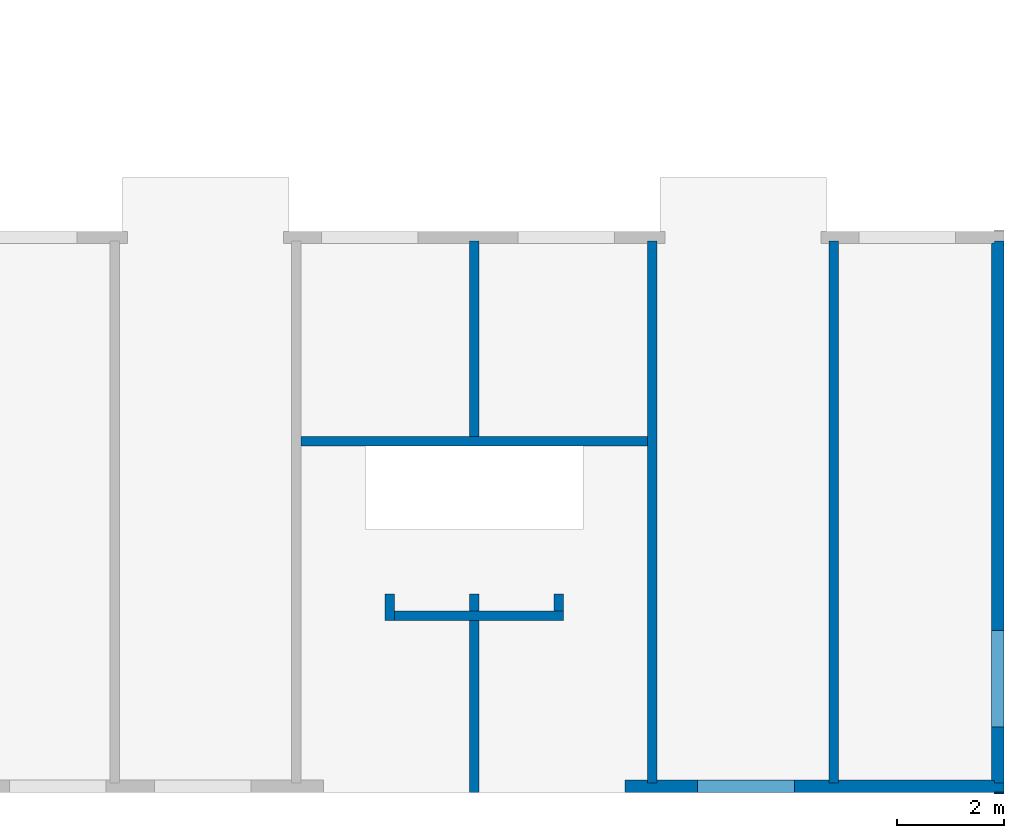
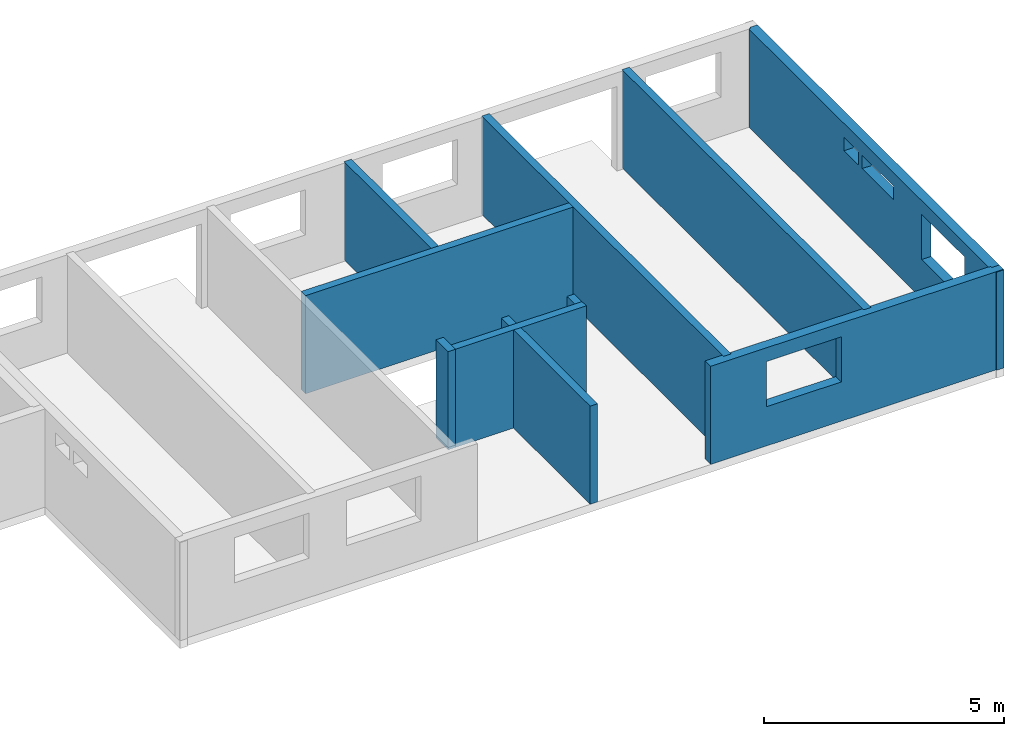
# One storey, part 8 of 9: 12 walls, 4 openings.
"""IFC2X3 building model written with IfcOpenShell, lengths in millimetres."""

from ifc_helpers import new_model, entity, si_unit, converted_unit, frame, frame_2d, origin, origin_with_axes, place, context, subcontext, project, spatial, polyline, rectangle, outline, extrude, material, layer, layer_set, layer_usage, element, save


model = new_model("IFC2X3")

# Units and contexts
model_context = context("Model", 3, precision=1e-05, world=origin())
plan_context = context("Plan", 3, precision=1e-05, world=origin())
body_context = subcontext(model_context, "Body", "Model", "MODEL_VIEW")
ifc_project = project(units=[si_unit("LENGTHUNIT", "METRE", prefix="MILLI"), converted_unit("PLANEANGLEUNIT", "DEGREE", entity("IfcPlaneAngleMeasure", 0.0174532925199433), si_unit("PLANEANGLEUNIT", "RADIAN"), dimensions=[0, 0, 0, 0, 0, 0, 0]), si_unit("AREAUNIT", "SQUARE_METRE"), si_unit("VOLUMEUNIT", "CUBIC_METRE")], contexts=[model_context, plan_context])

# Building, storey
building_placement = place(None, origin())
building = spatial("IfcBuilding", under=ifc_project, at=building_placement, Name="Bâtiment", CompositionType="ELEMENT")
storey_placement = place(building_placement, frame((0.0, 0.0, 5400.0), z_axis=(0.0, 0.0, 1.0), x_axis=(1.0, 0.0, 0.0)))
storey = spatial("IfcBuildingStorey", under=building, at=storey_placement, Name="r+2", CompositionType="ELEMENT", Elevation=5400.0)

# Walls
ifc_material_1 = material(Name="moellons")
ifc_layer_1 = layer(ifc_material_1, 20.16279356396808)
ifc_layer_set_1 = layer_set([ifc_layer_1])
ifc_layer_usage_1 = layer_usage(ifc_layer_set_1, "AXIS2", "POSITIVE", 0.0)
wall_1_placement = place(storey_placement, frame((59549.9999999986, -5599.999999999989, 0.0), z_axis=(0.0, 0.0, 1.0), x_axis=(-1.0, 0.0, 0.0)))
element("IfcWallStandardCase", 1, at=wall_1_placement, inside=storey, material=ifc_layer_usage_1, context=body_context, shape_type="SweptSolid", body=[
    extrude(rectangle(XDim=180.0, YDim=20.16279356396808, at=frame_2d((90.0, 10.08139678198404), x_axis=(1.0, 0.0))), frame((0.0, -20.16279356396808, 0.0), z_axis=(0.0, 0.0, 1.0), x_axis=(1.0, 0.0, 0.0)), (0.0, 0.0, 1.0), 2500.0),
])
ifc_material_2 = material(Name="moellons")
ifc_layer_2 = layer(ifc_material_2, 180.0)
ifc_layer_set_2 = layer_set([ifc_layer_2])
ifc_layer_usage_2 = layer_usage(ifc_layer_set_2, "AXIS2", "POSITIVE", 0.0)
wall_2_placement = place(storey_placement, frame((53089.99993810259, -5399.837206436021, 0.0), z_axis=(0.0, 0.0, 1.0), x_axis=(0.0, 1.0, 0.0)))
element("IfcWallStandardCase", 2, at=wall_2_placement, inside=storey, material=ifc_layer_usage_2, context=body_context, shape_type="SweptSolid", body=[
    extrude(rectangle(XDim=10089.91497192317, YDim=180.0, at=frame_2d((5044.957485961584, 90.0), x_axis=(1.0, 0.0))), origin_with_axes(), (0.0, 0.0, 1.0), 2500.0),
])
ifc_material_3 = material(Name="moellons")
ifc_layer_3 = layer(ifc_material_3, 180.0)
ifc_layer_set_3 = layer_set([ifc_layer_3])
ifc_layer_usage_3 = layer_usage(ifc_layer_set_3, "AXIS2", "POSITIVE", 0.0)
wall_3_placement = place(storey_placement, frame((56469.99999999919, -5399.837206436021, 0.0), z_axis=(0.0, 0.0, 1.0), x_axis=(0.0, 1.0, 0.0)))
element("IfcWallStandardCase", 3, at=wall_3_placement, inside=storey, material=ifc_layer_usage_3, context=body_context, shape_type="SweptSolid", body=[
    extrude(rectangle(XDim=10089.91497192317, YDim=180.0, at=frame_2d((5044.957485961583, 90.0), x_axis=(1.0, 0.0))), origin_with_axes(), (0.0, 0.0, 1.0), 2500.0),
])
ifc_material_4 = material(Name="moellons")
ifc_layer_4 = layer(ifc_material_4, 180.0)
ifc_layer_set_4 = layer_set([ifc_layer_4])
ifc_layer_usage_4 = layer_usage(ifc_layer_set_4, "AXIS2", "POSITIVE", 0.0)
wall_4_placement = place(storey_placement, frame((49774.99999999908, -5579.961782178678, 0.0), z_axis=(0.0, 0.0, 1.0), x_axis=(0.0, 1.0, 0.0)))
element("IfcWallStandardCase", 4, at=wall_4_placement, inside=storey, material=ifc_layer_usage_4, context=body_context, shape_type="SweptSolid", body=[
    extrude(outline(polyline([(0.0, 0.0), (3200.039547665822, 0.0), (3200.039547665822, 180.0), (0.0007169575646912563, 180.0), (0.0, 0.0)])), origin_with_axes(), (0.0, 0.0, 1.0), 2500.0),
])
ifc_material_5 = material(Name="moellons")
ifc_layer_5 = layer(ifc_material_5, 180.0)
ifc_layer_set_5 = layer_set([ifc_layer_5])
ifc_layer_usage_5 = layer_usage(ifc_layer_set_5, "AXIS2", "POSITIVE", 0.0)
wall_5_placement = place(storey_placement, frame((49774.99999999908, -5579.961782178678, 0.0), z_axis=(0.0, 0.0, 1.0), x_axis=(0.0, 1.0, 0.0)))
element("IfcWallStandardCase", 5, at=wall_5_placement, inside=storey, material=ifc_layer_usage_5, context=body_context, shape_type="SweptSolid", body=[
    extrude(outline(polyline([(3380.039547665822, 0.0), (3700.039547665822, 0.0), (3700.039547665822, 180.0), (3380.039547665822, 180.0), (3380.039547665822, 0.0)])), origin_with_axes(), (0.0, 0.0, 1.0), 2500.0),
])
ifc_material_6 = material(Name="moellons")
ifc_layer_6 = layer(ifc_material_6, 180.0)
ifc_layer_set_6 = layer_set([ifc_layer_6])
ifc_layer_usage_6 = layer_usage(ifc_layer_set_6, "AXIS2", "POSITIVE", 0.0)
wall_6_placement = place(storey_placement, frame((49774.99999999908, 1050.077765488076, 0.0), z_axis=(0.0, 0.0, 1.0), x_axis=(0.0, 1.0, 0.0)))
element("IfcWallStandardCase", 6, at=wall_6_placement, inside=storey, material=ifc_layer_usage_6, context=body_context, shape_type="SweptSolid", body=[
    extrude(rectangle(XDim=3639.999999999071, YDim=180.0, at=frame_2d((1819.999999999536, 90.0), x_axis=(1.0, 0.0))), origin_with_axes(), (0.0, 0.0, 1.0), 2500.0),
])
ifc_material_7 = material(Name="moellons")
ifc_layer_7 = layer(ifc_material_7, 180.0)
ifc_layer_set_7 = layer_set([ifc_layer_7])
ifc_layer_usage_7 = layer_usage(ifc_layer_set_7, "AXIS2", "POSITIVE", 0.0)
wall_7_placement = place(storey_placement, frame((52909.99947974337, 1050.077765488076, 0.0), z_axis=(0.0, 0.0, 1.0), x_axis=(-1.0, 0.0, 0.0)))
element("IfcWallStandardCase", 7, at=wall_7_placement, inside=storey, material=ifc_layer_usage_7, context=body_context, shape_type="SweptSolid", body=[
    extrude(rectangle(XDim=6449.999479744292, YDim=180.0, at=frame_2d((3224.999739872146, 90.0), x_axis=(1.0, 0.0))), origin_with_axes(), (0.0, 0.0, 1.0), 2500.0),
])
ifc_material_8 = material(Name="moellons")
ifc_layer_8 = layer(ifc_material_8, 180.0)
ifc_layer_set_8 = layer_set([ifc_layer_8])
ifc_layer_usage_8 = layer_usage(ifc_layer_set_8, "AXIS2", "POSITIVE", 0.0)
wall_8_placement = place(storey_placement, frame((48199.99945313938, -2379.922234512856, 0.0), z_axis=(0.0, 0.0, 1.0), x_axis=(0.0, 1.0, 0.0)))
element("IfcWallStandardCase", 8, at=wall_8_placement, inside=storey, material=ifc_layer_usage_8, context=body_context, shape_type="SweptSolid", body=[
    extrude(rectangle(XDim=500.0, YDim=180.0, at=frame_2d((250.0, 90.0), x_axis=(1.0, 0.0))), origin_with_axes(), (0.0, 0.0, 1.0), 2500.0),
])
ifc_material_9 = material(Name="moellons")
ifc_layer_9 = layer(ifc_material_9, 180.0)
ifc_layer_set_9 = layer_set([ifc_layer_9])
ifc_layer_usage_9 = layer_usage(ifc_layer_set_9, "AXIS2", "POSITIVE", 0.0)
wall_9_placement = place(storey_placement, frame((51349.9994531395, -2199.922234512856, 0.0), z_axis=(0.0, 0.0, 1.0), x_axis=(-1.0, 0.0, 0.0)))
element("IfcWallStandardCase", 9, at=wall_9_placement, inside=storey, material=ifc_layer_usage_9, context=body_context, shape_type="SweptSolid", body=[
    extrude(rectangle(XDim=3150.000000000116, YDim=180.0, at=frame_2d((1575.000000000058, 90.0), x_axis=(1.0, 0.0))), origin_with_axes(), (0.0, 0.0, 1.0), 2500.0),
])
ifc_material_10 = material(Name="moellons")
ifc_layer_10 = layer(ifc_material_10, 180.0)
ifc_layer_set_10 = layer_set([ifc_layer_10])
ifc_layer_usage_10 = layer_usage(ifc_layer_set_10, "AXIS2", "POSITIVE", 0.0)
wall_10_placement = place(storey_placement, frame((51169.9994531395, -1879.922234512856, 0.0), z_axis=(0.0, 0.0, 1.0), x_axis=(0.0, -1.0, 0.0)))
element("IfcWallStandardCase", 10, at=wall_10_placement, inside=storey, material=ifc_layer_usage_10, context=body_context, shape_type="SweptSolid", body=[
    extrude(rectangle(XDim=320.0, YDim=180.0, at=frame_2d((160.0, 90.0), x_axis=(1.0, 0.0))), origin_with_axes(), (0.0, 0.0, 1.0), 2500.0),
])

# Wall, openings
ifc_material_11 = material(Name="moellons")
ifc_layer_11 = layer(ifc_material_11, 180.0)
ifc_material_12 = material(Name="briquettes")
ifc_layer_12 = layer(ifc_material_12, 40.0)
ifc_material_13 = material(Name="enduit platre")
ifc_layer_13 = layer(ifc_material_13, 10.0)
ifc_layer_set_11 = layer_set([ifc_layer_11, ifc_layer_12, ifc_layer_13])
ifc_layer_usage_11 = layer_usage(ifc_layer_set_11, "AXIS2", "POSITIVE", 0.0)
wall_11_placement = place(storey_placement, frame((59549.99999999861, -5399.837206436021, 0.0), z_axis=(0.0, 0.0, 1.0), x_axis=(0.0, 1.0, 0.0)))
wall_11 = element("IfcWallStandardCase", 11, at=wall_11_placement, inside=storey, material=ifc_layer_usage_11, context=body_context, shape_type="SweptSolid", body=[
    extrude(outline(polyline([(0.0, 0.0), (10089.91497192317, 0.0), (10089.91497192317, 180.0), (10049.91497192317, 180.0), (10049.91497192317, 220.0), (10039.91497192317, 220.0), (10039.91497192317, 230.0), (50.0, 230.0), (50.0, 220.0), (40.0, 220.0), (40.0, 180.0), (0.0, 180.0), (0.0, 0.0)])), origin_with_axes(), (0.0, 0.0, 1.0), 2500.0),
])
opening_1_placement = place(wall_11_placement, frame((1039.837206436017, 0.0, 1000.0), z_axis=(0.0, 1.0, 0.0), x_axis=(0.0, 0.0, 1.0)))
element("IfcOpeningElement", 12, at=opening_1_placement, cuts=wall_11, Name="Baie de fenêtre", ObjectType="Opening", context=body_context, shape_type="SweptSolid", body=[
    extrude(rectangle(XDim=1150.0, YDim=1800.0, at=frame_2d((575.0, 900.0), x_axis=(1.0, 0.0))), origin_with_axes(), (0.0, 0.0, 1.0), 230.0),
])
opening_2_placement = place(wall_11_placement, frame((5469.914971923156, 0.0, 1810.0), z_axis=(0.0, 1.0, 0.0), x_axis=(0.0, 0.0, 1.0)))
element("IfcOpeningElement", 13, at=opening_2_placement, cuts=wall_11, Name="Baie de fenêtre", ObjectType="Opening", context=body_context, shape_type="SweptSolid", body=[
    extrude(rectangle(XDim=340.0, YDim=600.0, at=frame_2d((170.0, 300.0), x_axis=(1.0, 0.0))), origin_with_axes(), (0.0, 0.0, 1.0), 230.0),
])
opening_3_placement = place(wall_11_placement, frame((4019.914971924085, 0.0, 1810.0), z_axis=(0.0, 1.0, 0.0), x_axis=(0.0, 0.0, 1.0)))
element("IfcOpeningElement", 14, at=opening_3_placement, cuts=wall_11, Name="Baie de fenêtre", ObjectType="Opening", context=body_context, shape_type="SweptSolid", body=[
    extrude(rectangle(XDim=340.0, YDim=1300.0, at=frame_2d((170.0, 650.0), x_axis=(1.0, 0.0))), origin_with_axes(), (0.0, 0.0, 1.0), 230.0),
])

# Wall, opening
ifc_material_14 = material(Name="moellons")
ifc_layer_14 = layer(ifc_material_14, 180.0)
ifc_material_15 = material(Name="briquettes")
ifc_layer_15 = layer(ifc_material_15, 40.0)
ifc_material_16 = material(Name="enduit platre")
ifc_layer_16 = layer(ifc_material_16, 10.0)
ifc_layer_set_12 = layer_set([ifc_layer_14, ifc_layer_15, ifc_layer_16])
ifc_layer_usage_12 = layer_usage(ifc_layer_set_12, "AXIS2", "POSITIVE", 0.0)
wall_12_placement = place(storey_placement, frame((52494.99999999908, -5579.837206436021, 0.0), z_axis=(0.0, 0.0, 1.0), x_axis=(1.0, 0.0, 0.0)))
wall_12 = element("IfcWallStandardCase", 15, at=wall_12_placement, inside=storey, material=ifc_layer_usage_12, context=body_context, shape_type="SweptSolid", body=[
    extrude(outline(polyline([(0.0, 0.0), (7054.999999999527, 0.0), (7054.999999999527, 180.0), (6874.999999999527, 180.0), (6874.999999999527, 220.0), (6834.999999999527, 220.0), (6834.999999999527, 230.0), (3975.000000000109, 230.0), (3975.000000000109, 180.0), (3795.000000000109, 180.0), (3795.000000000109, 230.0), (594.9999381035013, 230.0), (594.9999381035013, 180.0), (414.9999381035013, 180.0), (414.9999381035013, 230.0), (0.0, 230.0), (0.0, 0.0)])), origin_with_axes(), (0.0, 0.0, 1.0), 2500.0),
])
opening_4_placement = place(wall_12_placement, frame((1349.999999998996, 0.0, 1000.0), z_axis=(0.0, 1.0, 0.0), x_axis=(0.0, 0.0, 1.0)))
element("IfcOpeningElement", 16, at=opening_4_placement, cuts=wall_12, Name="Baie de fenêtre", ObjectType="Opening", context=body_context, shape_type="SweptSolid", body=[
    extrude(rectangle(XDim=1150.0, YDim=1800.0, at=frame_2d((575.0, 900.0), x_axis=(1.0, 0.0))), origin_with_axes(), (0.0, 0.0, 1.0), 230.0),
])

save(model, "model.ifc")
